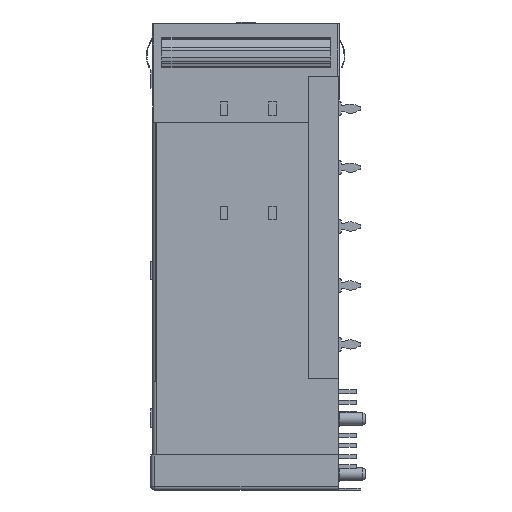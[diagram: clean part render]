
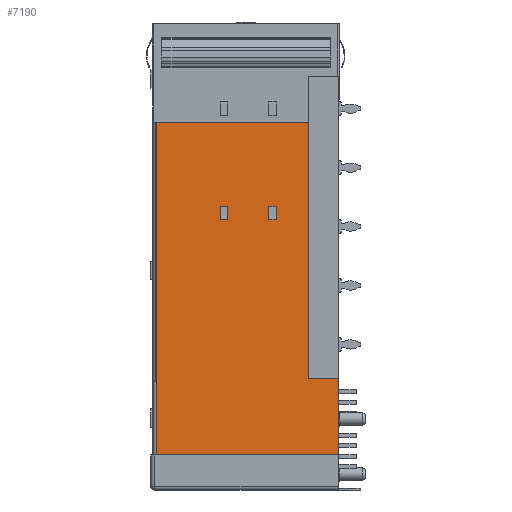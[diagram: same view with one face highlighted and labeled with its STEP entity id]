
A CAD part, left-side view. The second image highlights one B-rep face of the part: STEP entity #7190.
In plain terms, the highlighted planar face has unit normal (-1, 0, 0).
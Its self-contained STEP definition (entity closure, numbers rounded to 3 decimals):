
#152 = VECTOR ( 'NONE', #6246, 1000. ) ;
#2144 = ORIENTED_EDGE ( 'NONE', *, *, #66884, .T. ) ;
#2492 = ORIENTED_EDGE ( 'NONE', *, *, #14479, .T. ) ;
#2495 = CARTESIAN_POINT ( 'NONE',  ( -28.625, 16., -26.6 ) ) ;
#3449 = CARTESIAN_POINT ( 'NONE',  ( -28.625, 0., -63.25 ) ) ;
#4517 = VECTOR ( 'NONE', #26995, 1000. ) ;
#4943 = CARTESIAN_POINT ( 'NONE',  ( -28.625, 4.1, -48.1 ) ) ;
#5112 = CARTESIAN_POINT ( 'NONE',  ( -28.625, 16., -24.8 ) ) ;
#5285 = VERTEX_POINT ( 'NONE', #63241 ) ;
#5368 = LINE ( 'NONE', #44406, #54767 ) ;
#5370 = EDGE_CURVE ( 'NONE', #28682, #12878, #53247, .T. ) ;
#6246 = DIRECTION ( 'NONE',  ( 0., -1., 0. ) ) ;
#6306 = ORIENTED_EDGE ( 'NONE', *, *, #5370, .T. ) ;
#6839 = CARTESIAN_POINT ( 'NONE',  ( -28.625, 4.1, -7.1 ) ) ;
#6840 = EDGE_CURVE ( 'NONE', #18111, #5285, #5368, .T. ) ;
#7111 = CARTESIAN_POINT ( 'NONE',  ( -28.625, 0., -48.1 ) ) ;
#7190 = ADVANCED_FACE ( 'NONE', ( #20120, #47840, #54776 ), #14553, .T. ) ;
#7794 = VERTEX_POINT ( 'NONE', #62105 ) ;
#8051 = ORIENTED_EDGE ( 'NONE', *, *, #6840, .T. ) ;
#10442 = CARTESIAN_POINT ( 'NONE',  ( -28.625, 25.2, -58.5 ) ) ;
#10735 = VECTOR ( 'NONE', #57955, 1000. ) ;
#11376 = LINE ( 'NONE', #10442, #68521 ) ;
#12198 = DIRECTION ( 'NONE',  ( 0., -1., 0. ) ) ;
#12304 = VECTOR ( 'NONE', #14337, 1000. ) ;
#12878 = VERTEX_POINT ( 'NONE', #64137 ) ;
#13098 = EDGE_LOOP ( 'NONE', ( #8051, #14381, #6306, #15114 ) ) ;
#14337 = DIRECTION ( 'NONE',  ( 0., 1., 0. ) ) ;
#14381 = ORIENTED_EDGE ( 'NONE', *, *, #45466, .T. ) ;
#14479 = EDGE_CURVE ( 'NONE', #56265, #51356, #64748, .T. ) ;
#14553 = PLANE ( 'NONE',  #55207 ) ;
#14849 = DIRECTION ( 'NONE',  ( 0., 1., 0. ) ) ;
#14875 = CARTESIAN_POINT ( 'NONE',  ( -28.625, 9.45, -26.6 ) ) ;
#14909 = EDGE_LOOP ( 'NONE', ( #61380, #67065, #2144, #59610, #35517, #2492 ) ) ;
#15114 = ORIENTED_EDGE ( 'NONE', *, *, #46116, .T. ) ;
#15622 = CARTESIAN_POINT ( 'NONE',  ( -28.625, 15., -24.8 ) ) ;
#17567 = EDGE_CURVE ( 'NONE', #45774, #56265, #42623, .T. ) ;
#18111 = VERTEX_POINT ( 'NONE', #57845 ) ;
#20120 = FACE_BOUND ( 'NONE', #52943, .T. ) ;
#20204 = VERTEX_POINT ( 'NONE', #14875 ) ;
#20914 = ORIENTED_EDGE ( 'NONE', *, *, #27757, .T. ) ;
#22305 = VECTOR ( 'NONE', #24250, 1000. ) ;
#23005 = LINE ( 'NONE', #69913, #58497 ) ;
#24006 = DIRECTION ( 'NONE',  ( 0., 1., 0. ) ) ;
#24250 = DIRECTION ( 'NONE',  ( 0., 0., 1. ) ) ;
#24320 = CARTESIAN_POINT ( 'NONE',  ( -28.625, 24.7, -58.5 ) ) ;
#24765 = CARTESIAN_POINT ( 'NONE',  ( -28.625, 0., -48.1 ) ) ;
#26144 = LINE ( 'NONE', #15622, #36477 ) ;
#26995 = DIRECTION ( 'NONE',  ( 0., -1., 0. ) ) ;
#27610 = DIRECTION ( 'NONE',  ( 0., 0., 1. ) ) ;
#27757 = EDGE_CURVE ( 'NONE', #20204, #54716, #51530, .T. ) ;
#28264 = EDGE_CURVE ( 'NONE', #7794, #20204, #63526, .T. ) ;
#28682 = VERTEX_POINT ( 'NONE', #35130 ) ;
#28763 = LINE ( 'NONE', #49041, #4517 ) ;
#29825 = VERTEX_POINT ( 'NONE', #24320 ) ;
#30045 = ORIENTED_EDGE ( 'NONE', *, *, #44066, .T. ) ;
#30798 = EDGE_CURVE ( 'NONE', #54716, #35412, #28763, .T. ) ;
#31003 = DIRECTION ( 'NONE',  ( 0., 0., 1. ) ) ;
#31058 = LINE ( 'NONE', #69883, #46664 ) ;
#32062 = DIRECTION ( 'NONE',  ( 0., 0., -1. ) ) ;
#34904 = EDGE_CURVE ( 'NONE', #65071, #45774, #23005, .T. ) ;
#35130 = CARTESIAN_POINT ( 'NONE',  ( -28.625, 15., -26.6 ) ) ;
#35412 = VERTEX_POINT ( 'NONE', #36164 ) ;
#35517 = ORIENTED_EDGE ( 'NONE', *, *, #17567, .T. ) ;
#36164 = CARTESIAN_POINT ( 'NONE',  ( -28.625, 8.45, -24.8 ) ) ;
#36477 = VECTOR ( 'NONE', #32062, 1000. ) ;
#37910 = DIRECTION ( 'NONE',  ( 0., 0., 1. ) ) ;
#38253 = DIRECTION ( 'NONE',  ( 0., -1., 0. ) ) ;
#39322 = LINE ( 'NONE', #41948, #10735 ) ;
#40768 = LINE ( 'NONE', #56133, #152 ) ;
#41948 = CARTESIAN_POINT ( 'NONE',  ( -28.625, 8.45, -24.8 ) ) ;
#41951 = CARTESIAN_POINT ( 'NONE',  ( -28.625, 9.45, -26.6 ) ) ;
#42623 = LINE ( 'NONE', #24765, #12304 ) ;
#42720 = VECTOR ( 'NONE', #14849, 1000. ) ;
#44066 = EDGE_CURVE ( 'NONE', #35412, #7794, #39322, .T. ) ;
#44321 = ORIENTED_EDGE ( 'NONE', *, *, #28264, .T. ) ;
#44406 = CARTESIAN_POINT ( 'NONE',  ( -28.625, 16., -24.8 ) ) ;
#45466 = EDGE_CURVE ( 'NONE', #5285, #28682, #26144, .T. ) ;
#45774 = VERTEX_POINT ( 'NONE', #7111 ) ;
#46116 = EDGE_CURVE ( 'NONE', #12878, #18111, #64995, .T. ) ;
#46281 = CARTESIAN_POINT ( 'NONE',  ( -28.625, 4.1, -13.4 ) ) ;
#46664 = VECTOR ( 'NONE', #53934, 1000. ) ;
#47840 = FACE_BOUND ( 'NONE', #13098, .T. ) ;
#48818 = VERTEX_POINT ( 'NONE', #64925 ) ;
#48838 = CARTESIAN_POINT ( 'NONE',  ( -28.625, 9.45, -24.8 ) ) ;
#49041 = CARTESIAN_POINT ( 'NONE',  ( -28.625, 9.45, -24.8 ) ) ;
#50260 = VECTOR ( 'NONE', #27610, 1000. ) ;
#51356 = VERTEX_POINT ( 'NONE', #46281 ) ;
#51530 = LINE ( 'NONE', #48838, #61026 ) ;
#52943 = EDGE_LOOP ( 'NONE', ( #71766, #30045, #44321, #20914 ) ) ;
#53247 = LINE ( 'NONE', #2495, #61008 ) ;
#53934 = DIRECTION ( 'NONE',  ( 0., 0., -1. ) ) ;
#54716 = VERTEX_POINT ( 'NONE', #58050 ) ;
#54767 = VECTOR ( 'NONE', #12198, 1000. ) ;
#54776 = FACE_OUTER_BOUND ( 'NONE', #14909, .T. ) ;
#54893 = EDGE_CURVE ( 'NONE', #48818, #29825, #31058, .T. ) ;
#55207 = AXIS2_PLACEMENT_3D ( 'NONE', #3449, #64204, #31003 ) ;
#56133 = CARTESIAN_POINT ( 'NONE',  ( -28.625, 25.2, -13.4 ) ) ;
#56265 = VERTEX_POINT ( 'NONE', #4943 ) ;
#57845 = CARTESIAN_POINT ( 'NONE',  ( -28.625, 16., -24.8 ) ) ;
#57955 = DIRECTION ( 'NONE',  ( 0., 0., -1. ) ) ;
#58050 = CARTESIAN_POINT ( 'NONE',  ( -28.625, 9.45, -24.8 ) ) ;
#58497 = VECTOR ( 'NONE', #70651, 1000. ) ;
#59610 = ORIENTED_EDGE ( 'NONE', *, *, #34904, .T. ) ;
#61008 = VECTOR ( 'NONE', #24006, 1000. ) ;
#61026 = VECTOR ( 'NONE', #37910, 1000. ) ;
#61128 = CARTESIAN_POINT ( 'NONE',  ( -28.625, 0., -58.5 ) ) ;
#61380 = ORIENTED_EDGE ( 'NONE', *, *, #66185, .F. ) ;
#62105 = CARTESIAN_POINT ( 'NONE',  ( -28.625, 8.45, -26.6 ) ) ;
#63241 = CARTESIAN_POINT ( 'NONE',  ( -28.625, 15., -24.8 ) ) ;
#63526 = LINE ( 'NONE', #41951, #42720 ) ;
#64137 = CARTESIAN_POINT ( 'NONE',  ( -28.625, 16., -26.6 ) ) ;
#64204 = DIRECTION ( 'NONE',  ( -1., 0., 0. ) ) ;
#64748 = LINE ( 'NONE', #6839, #22305 ) ;
#64925 = CARTESIAN_POINT ( 'NONE',  ( -28.625, 24.7, -13.4 ) ) ;
#64995 = LINE ( 'NONE', #5112, #50260 ) ;
#65071 = VERTEX_POINT ( 'NONE', #61128 ) ;
#66185 = EDGE_CURVE ( 'NONE', #48818, #51356, #40768, .T. ) ;
#66884 = EDGE_CURVE ( 'NONE', #29825, #65071, #11376, .T. ) ;
#67065 = ORIENTED_EDGE ( 'NONE', *, *, #54893, .T. ) ;
#68521 = VECTOR ( 'NONE', #38253, 1000. ) ;
#69883 = CARTESIAN_POINT ( 'NONE',  ( -28.625, 24.7, -63.25 ) ) ;
#69913 = CARTESIAN_POINT ( 'NONE',  ( -28.625, 0., -63.25 ) ) ;
#70651 = DIRECTION ( 'NONE',  ( 0., 0., 1. ) ) ;
#71766 = ORIENTED_EDGE ( 'NONE', *, *, #30798, .T. ) ;
